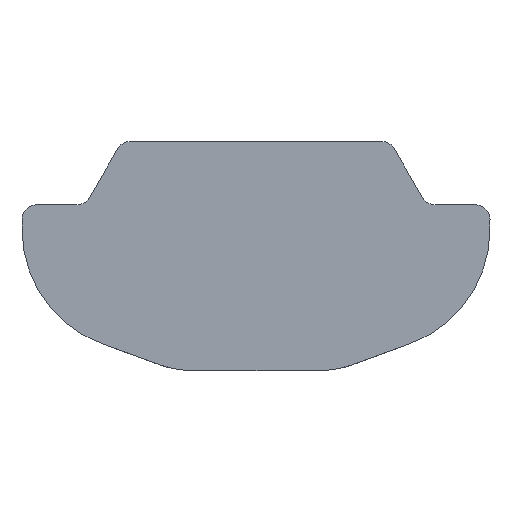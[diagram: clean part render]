
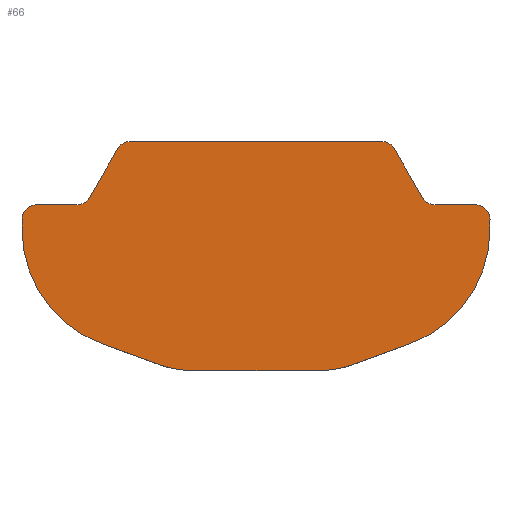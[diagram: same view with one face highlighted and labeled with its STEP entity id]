
A CAD part, front view. The second image highlights one B-rep face of the part: STEP entity #66.
In plain terms, the highlighted planar face has unit normal (0, -1, 0).
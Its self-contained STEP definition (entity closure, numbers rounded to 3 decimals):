
#66=ADVANCED_FACE('',(#149),#150,.F.);
#149=FACE_OUTER_BOUND('',#250,.T.);
#150=PLANE('',#251);
#250=EDGE_LOOP('',(#375,#376,#377,#378,#379,#380,#381,#382,#383,#384,#385,#386,#387,#388,#389,#390,#391,#392,#393,#394));
#251=AXIS2_PLACEMENT_3D('',#395,#396,#397);
#375=ORIENTED_EDGE('',*,*,#649,.T.);
#376=ORIENTED_EDGE('',*,*,#650,.T.);
#377=ORIENTED_EDGE('',*,*,#621,.T.);
#378=ORIENTED_EDGE('',*,*,#651,.T.);
#379=ORIENTED_EDGE('',*,*,#652,.T.);
#380=ORIENTED_EDGE('',*,*,#653,.T.);
#381=ORIENTED_EDGE('',*,*,#654,.T.);
#382=ORIENTED_EDGE('',*,*,#655,.T.);
#383=ORIENTED_EDGE('',*,*,#656,.T.);
#384=ORIENTED_EDGE('',*,*,#657,.T.);
#385=ORIENTED_EDGE('',*,*,#658,.T.);
#386=ORIENTED_EDGE('',*,*,#636,.T.);
#387=ORIENTED_EDGE('',*,*,#659,.T.);
#388=ORIENTED_EDGE('',*,*,#646,.T.);
#389=ORIENTED_EDGE('',*,*,#660,.T.);
#390=ORIENTED_EDGE('',*,*,#631,.T.);
#391=ORIENTED_EDGE('',*,*,#661,.T.);
#392=ORIENTED_EDGE('',*,*,#662,.T.);
#393=ORIENTED_EDGE('',*,*,#663,.T.);
#394=ORIENTED_EDGE('',*,*,#641,.T.);
#395=CARTESIAN_POINT('',(3.674,-70.0,-1.5));
#396=DIRECTION('',(0.0,1.0,0.0));
#397=DIRECTION('',(-1.0,0.0,0.0));
#621=EDGE_CURVE('',#740,#738,#741,.T.);
#631=EDGE_CURVE('',#758,#756,#759,.T.);
#636=EDGE_CURVE('',#767,#765,#768,.T.);
#641=EDGE_CURVE('',#776,#774,#777,.T.);
#646=EDGE_CURVE('',#785,#783,#786,.T.);
#649=EDGE_CURVE('',#774,#789,#790,.T.);
#650=EDGE_CURVE('',#789,#740,#791,.T.);
#651=EDGE_CURVE('',#738,#792,#793,.T.);
#652=EDGE_CURVE('',#792,#794,#795,.T.);
#653=EDGE_CURVE('',#794,#796,#797,.T.);
#654=EDGE_CURVE('',#796,#798,#799,.T.);
#655=EDGE_CURVE('',#798,#800,#801,.T.);
#656=EDGE_CURVE('',#800,#802,#803,.T.);
#657=EDGE_CURVE('',#802,#804,#805,.T.);
#658=EDGE_CURVE('',#804,#767,#806,.T.);
#659=EDGE_CURVE('',#765,#785,#807,.T.);
#660=EDGE_CURVE('',#783,#758,#808,.T.);
#661=EDGE_CURVE('',#756,#809,#810,.T.);
#662=EDGE_CURVE('',#809,#811,#812,.T.);
#663=EDGE_CURVE('',#811,#776,#813,.T.);
#738=VERTEX_POINT('',#913);
#740=VERTEX_POINT('',#916);
#741=LINE('',#917,#918);
#756=VERTEX_POINT('',#951);
#758=VERTEX_POINT('',#954);
#759=CIRCLE('',#955,2.);
#765=VERTEX_POINT('',#962);
#767=VERTEX_POINT('',#965);
#768=CIRCLE('',#966,2.5);
#774=VERTEX_POINT('',#973);
#776=VERTEX_POINT('',#976);
#777=CIRCLE('',#977,0.3);
#783=VERTEX_POINT('',#989);
#785=VERTEX_POINT('',#992);
#786=CIRCLE('',#993,2.);
#789=VERTEX_POINT('',#997);
#790=LINE('',#998,#999);
#791=CIRCLE('',#1000,0.3);
#792=VERTEX_POINT('',#1001);
#793=CIRCLE('',#1002,0.3);
#794=VERTEX_POINT('',#1003);
#795=LINE('',#1004,#1005);
#796=VERTEX_POINT('',#1006);
#797=CIRCLE('',#1007,0.3);
#798=VERTEX_POINT('',#1008);
#799=LINE('',#1009,#1010);
#800=VERTEX_POINT('',#1011);
#801=CIRCLE('',#1012,0.3);
#802=VERTEX_POINT('',#1013);
#803=LINE('',#1014,#1015);
#804=VERTEX_POINT('',#1016);
#805=CIRCLE('',#1017,0.3);
#806=LINE('',#1018,#1019);
#807=LINE('',#1020,#1021);
#808=LINE('',#1022,#1023);
#809=VERTEX_POINT('',#1024);
#810=LINE('',#1025,#1026);
#811=VERTEX_POINT('',#1027);
#812=CIRCLE('',#1028,2.5);
#813=LINE('',#1029,#1030);
#913=CARTESIAN_POINT('',(2.837,-70.0,-0.65));
#916=CARTESIAN_POINT('',(3.414,-70.0,-1.65));
#917=CARTESIAN_POINT('',(3.414,-70.0,-1.65));
#918=VECTOR('',#1172,1.0);
#951=CARTESIAN_POINT('',(1.981,-70.0,-5.079));
#954=CARTESIAN_POINT('',(1.297,-70.0,-5.2));
#955=AXIS2_PLACEMENT_3D('',#1177,#1178,#1179);
#962=CARTESIAN_POINT('',(-3.155,-70.0,-4.652));
#965=CARTESIAN_POINT('',(-4.8,-70.0,-2.303));
#966=AXIS2_PLACEMENT_3D('',#1185,#1186,#1187);
#973=CARTESIAN_POINT('',(4.5,-70.0,-1.8));
#976=CARTESIAN_POINT('',(4.8,-70.0,-2.1));
#977=AXIS2_PLACEMENT_3D('',#1193,#1194,#1195);
#989=CARTESIAN_POINT('',(-1.297,-70.0,-5.2));
#992=CARTESIAN_POINT('',(-1.981,-70.0,-5.079));
#993=AXIS2_PLACEMENT_3D('',#1198,#1199,#1200);
#997=CARTESIAN_POINT('',(3.674,-70.0,-1.8));
#998=CARTESIAN_POINT('',(4.5,-70.0,-1.8));
#999=VECTOR('',#1202,1.0);
#1000=AXIS2_PLACEMENT_3D('',#1203,#1204,#1205);
#1001=CARTESIAN_POINT('',(2.577,-70.0,-0.5));
#1002=AXIS2_PLACEMENT_3D('',#1206,#1207,#1208);
#1003=CARTESIAN_POINT('',(-2.577,-70.0,-0.5));
#1004=CARTESIAN_POINT('',(2.577,-70.0,-0.5));
#1005=VECTOR('',#1209,1.0);
#1006=CARTESIAN_POINT('',(-2.837,-70.0,-0.65));
#1007=AXIS2_PLACEMENT_3D('',#1210,#1211,#1212);
#1008=CARTESIAN_POINT('',(-3.414,-70.0,-1.65));
#1009=CARTESIAN_POINT('',(-2.837,-70.0,-0.65));
#1010=VECTOR('',#1213,1.0);
#1011=CARTESIAN_POINT('',(-3.674,-70.0,-1.8));
#1012=AXIS2_PLACEMENT_3D('',#1214,#1215,#1216);
#1013=CARTESIAN_POINT('',(-4.5,-70.0,-1.8));
#1014=CARTESIAN_POINT('',(-3.674,-70.0,-1.8));
#1015=VECTOR('',#1217,1.0);
#1016=CARTESIAN_POINT('',(-4.8,-70.0,-2.1));
#1017=AXIS2_PLACEMENT_3D('',#1218,#1219,#1220);
#1018=CARTESIAN_POINT('',(-4.8,-70.0,-2.1));
#1019=VECTOR('',#1221,1.0);
#1020=CARTESIAN_POINT('',(-3.155,-70.0,-4.652));
#1021=VECTOR('',#1222,1.0);
#1022=CARTESIAN_POINT('',(-1.297,-70.0,-5.2));
#1023=VECTOR('',#1223,1.0);
#1024=CARTESIAN_POINT('',(3.155,-70.0,-4.652));
#1025=CARTESIAN_POINT('',(1.981,-70.0,-5.079));
#1026=VECTOR('',#1224,1.0);
#1027=CARTESIAN_POINT('',(4.8,-70.0,-2.303));
#1028=AXIS2_PLACEMENT_3D('',#1225,#1226,#1227);
#1029=CARTESIAN_POINT('',(4.8,-70.0,-2.303));
#1030=VECTOR('',#1228,1.0);
#1172=DIRECTION('',(-0.5,0.0,0.866));
#1177=CARTESIAN_POINT('',(1.297,-70.0,-3.2));
#1178=DIRECTION('',(0.0,-1.0,0.0));
#1179=DIRECTION('',(1.0,0.0,0.0));
#1185=CARTESIAN_POINT('',(-2.3,-70.0,-2.303));
#1186=DIRECTION('',(0.0,-1.0,0.0));
#1187=DIRECTION('',(1.0,0.0,0.0));
#1193=CARTESIAN_POINT('',(4.5,-70.0,-2.1));
#1194=DIRECTION('',(0.0,-1.0,0.0));
#1195=DIRECTION('',(1.0,0.0,0.0));
#1198=CARTESIAN_POINT('',(-1.297,-70.0,-3.2));
#1199=DIRECTION('',(0.0,-1.0,0.0));
#1200=DIRECTION('',(1.0,0.0,0.0));
#1202=DIRECTION('',(-1.0,0.0,0.));
#1203=CARTESIAN_POINT('',(3.674,-70.0,-1.5));
#1204=DIRECTION('',(0.0,1.0,0.0));
#1205=DIRECTION('',(-1.0,0.0,0.0));
#1206=CARTESIAN_POINT('',(2.577,-70.0,-0.8));
#1207=DIRECTION('',(0.0,-1.0,0.0));
#1208=DIRECTION('',(1.0,0.0,0.0));
#1209=DIRECTION('',(-1.0,0.0,0.));
#1210=CARTESIAN_POINT('',(-2.577,-70.0,-0.8));
#1211=DIRECTION('',(0.0,-1.0,0.0));
#1212=DIRECTION('',(1.0,0.0,0.0));
#1213=DIRECTION('',(-0.5,0.0,-0.866));
#1214=CARTESIAN_POINT('',(-3.674,-70.0,-1.5));
#1215=DIRECTION('',(0.0,1.0,0.0));
#1216=DIRECTION('',(-1.0,0.0,0.0));
#1217=DIRECTION('',(-1.0,0.0,0.));
#1218=CARTESIAN_POINT('',(-4.5,-70.0,-2.1));
#1219=DIRECTION('',(0.0,-1.0,0.0));
#1220=DIRECTION('',(1.0,0.0,0.0));
#1221=DIRECTION('',(0.,0.0,-1.0));
#1222=DIRECTION('',(0.94,0.0,-0.342));
#1223=DIRECTION('',(1.0,0.0,0.));
#1224=DIRECTION('',(0.94,0.0,0.342));
#1225=CARTESIAN_POINT('',(2.3,-70.0,-2.303));
#1226=DIRECTION('',(0.0,-1.0,0.0));
#1227=DIRECTION('',(1.0,0.0,0.0));
#1228=DIRECTION('',(0.,0.0,1.0));
